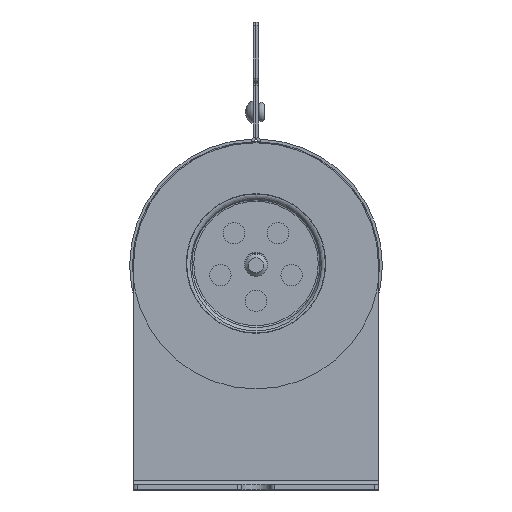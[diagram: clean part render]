
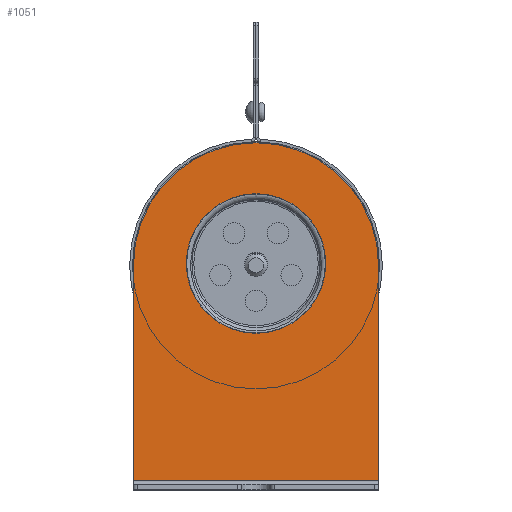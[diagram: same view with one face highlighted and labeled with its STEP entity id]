
A CAD part, left-side view. The second image highlights one B-rep face of the part: STEP entity #1051.
In plain terms, the highlighted planar face has unit normal (-1, 0, 0) as drawn and (1, 0, 0) by its records, which use the part's own axes.
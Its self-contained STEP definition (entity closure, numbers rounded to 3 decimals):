
#1051=ADVANCED_FACE('',(#1904,#1906),#1908,.T.);
#1904=FACE_BOUND('',#1905,.T.);
#1905=EDGE_LOOP('',(#3084,#3085,#3086,#3087));
#1906=FACE_BOUND('',#1907,.T.);
#1907=EDGE_LOOP('',(#3088));
#1908=PLANE('',#1909);
#1909=AXIS2_PLACEMENT_3D('',#1910,#1911,#1912);
#1910=CARTESIAN_POINT('',(1.5,0.,0.));
#1911=DIRECTION('',(1.,0.,0.));
#1912=DIRECTION('',(0.,1.,0.));
#3084=ORIENTED_EDGE('',*,*,#3724,.T.);
#3085=ORIENTED_EDGE('',*,*,#3725,.T.);
#3086=ORIENTED_EDGE('',*,*,#3726,.T.);
#3087=ORIENTED_EDGE('',*,*,#3727,.T.);
#3088=ORIENTED_EDGE('',*,*,#3722,.F.);
#3722=EDGE_CURVE('',#4081,#4081,#4082,.T.);
#3724=EDGE_CURVE('',#4085,#4086,#4087,.T.);
#3725=EDGE_CURVE('',#4086,#4088,#4089,.T.);
#3726=EDGE_CURVE('',#4088,#4090,#4091,.T.);
#3727=EDGE_CURVE('',#4090,#4085,#4092,.T.);
#4081=VERTEX_POINT('',#4717);
#4082=CIRCLE('',#4718,18.64);
#4085=VERTEX_POINT('',#4727);
#4086=VERTEX_POINT('',#4728);
#4087=LINE('',#4729,#4730);
#4088=VERTEX_POINT('',#4732);
#4089=LINE('',#4733,#4734);
#4090=VERTEX_POINT('',#4736);
#4091=CIRCLE('',#4737,32.75);
#4092=LINE('',#4741,#4742);
#4717=CARTESIAN_POINT('',(1.5,18.64,15.));
#4718=AXIS2_PLACEMENT_3D('',#4719,#4720,#4721);
#4719=CARTESIAN_POINT('',(1.5,0.,15.));
#4720=DIRECTION('',(1.,0.,0.));
#4721=DIRECTION('',(0.,1.,0.));
#4727=CARTESIAN_POINT('',(1.5,-32.75,-43.));
#4728=CARTESIAN_POINT('',(1.5,32.75,-43.));
#4729=CARTESIAN_POINT('',(1.5,-32.75,-43.));
#4730=VECTOR('',#4731,1.);
#4731=DIRECTION('',(0.,1.,0.));
#4732=CARTESIAN_POINT('',(1.5,32.75,14.5));
#4733=CARTESIAN_POINT('',(1.5,32.75,-43.));
#4734=VECTOR('',#4735,1.);
#4735=DIRECTION('',(0.,0.,1.));
#4736=CARTESIAN_POINT('',(1.5,-32.75,14.5));
#4737=AXIS2_PLACEMENT_3D('',#4738,#4739,#4740);
#4738=CARTESIAN_POINT('',(1.5,0.,14.5));
#4739=DIRECTION('',(1.,0.,0.));
#4740=DIRECTION('',(0.,1.,0.));
#4741=CARTESIAN_POINT('',(1.5,-32.75,14.5));
#4742=VECTOR('',#4743,1.);
#4743=DIRECTION('',(0.,0.,-1.));
